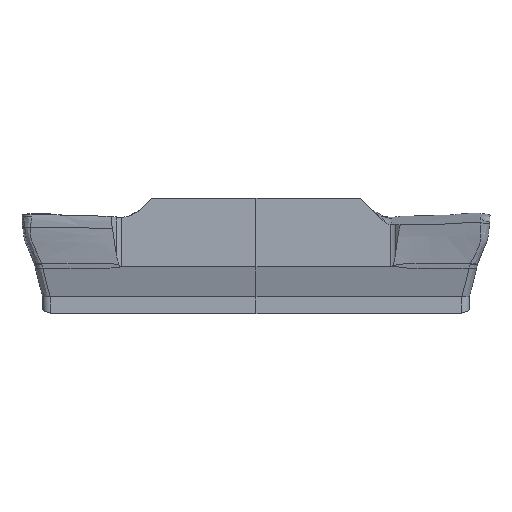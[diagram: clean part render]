
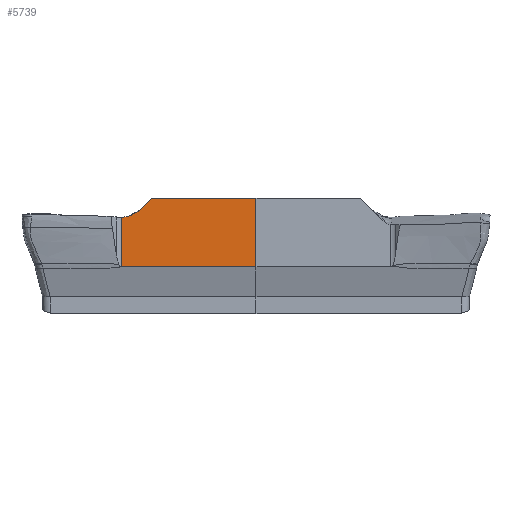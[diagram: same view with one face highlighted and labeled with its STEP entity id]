
A CAD part, left-side view. The second image highlights one B-rep face of the part: STEP entity #5739.
In plain terms, the highlighted planar face has unit normal (-1, 0, 0).
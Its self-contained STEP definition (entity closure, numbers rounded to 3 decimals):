
#5710=AXIS2_PLACEMENT_3D('Plane Axis2P3D',#5707,#5708,#5709) ;
#4323=CARTESIAN_POINT('Vertex',(-1.14,12.632,0.019)) ;
#4327=CARTESIAN_POINT('Control Point',(-1.14,11.605,0.655)) ;
#4328=CARTESIAN_POINT('Control Point',(-1.14,11.663,0.596)) ;
#4329=CARTESIAN_POINT('Control Point',(-1.14,11.722,0.537)) ;
#4330=CARTESIAN_POINT('Control Point',(-1.14,11.781,0.479)) ;
#4331=CARTESIAN_POINT('Control Point',(-1.14,11.862,0.394)) ;
#4332=CARTESIAN_POINT('Control Point',(-1.14,11.946,0.314)) ;
#4333=CARTESIAN_POINT('Control Point',(-1.14,11.97,0.293)) ;
#4334=CARTESIAN_POINT('Control Point',(-1.14,12.047,0.228)) ;
#4335=CARTESIAN_POINT('Control Point',(-1.14,12.131,0.173)) ;
#4336=CARTESIAN_POINT('Control Point',(-1.14,12.19,0.141)) ;
#4337=CARTESIAN_POINT('Control Point',(-1.14,12.309,0.083)) ;
#4338=CARTESIAN_POINT('Control Point',(-1.14,12.435,0.042)) ;
#4339=CARTESIAN_POINT('Control Point',(-1.14,12.5,0.027)) ;
#4340=CARTESIAN_POINT('Control Point',(-1.14,12.566,0.02)) ;
#4341=CARTESIAN_POINT('Control Point',(-1.14,12.632,0.019)) ;
#4342=CARTESIAN_POINT('Vertex',(-1.14,11.605,0.655)) ;
#4446=CARTESIAN_POINT('Vertex',(-1.14,12.632,-1.653)) ;
#4449=CARTESIAN_POINT('Line Origine',(-1.14,12.632,3.281)) ;
#5692=CARTESIAN_POINT('Vertex',(-1.14,8.095,0.655)) ;
#5695=CARTESIAN_POINT('Line Origine',(-1.14,9.85,0.655)) ;
#5707=CARTESIAN_POINT('Axis2P3D Location',(-1.14,12.632,8.531)) ;
#5712=CARTESIAN_POINT('Line Origine',(-1.14,12.632,-1.655)) ;
#5716=CARTESIAN_POINT('Vertex',(-1.14,12.632,-1.656)) ;
#5719=CARTESIAN_POINT('Line Origine',(-1.14,10.364,-1.656)) ;
#5723=CARTESIAN_POINT('Vertex',(-1.14,8.095,-1.656)) ;
#5726=CARTESIAN_POINT('Line Origine',(-1.14,8.095,-0.501)) ;
#4450=DIRECTION('Vector Direction',(0.,0.,-1.)) ;
#5696=DIRECTION('Vector Direction',(0.,-1.,0.)) ;
#5708=DIRECTION('Axis2P3D Direction',(-1.,0.,0.)) ;
#5709=DIRECTION('Axis2P3D XDirection',(0.,-1.,0.)) ;
#5713=DIRECTION('Vector Direction',(0.,0.,1.)) ;
#5720=DIRECTION('Vector Direction',(0.,1.,0.)) ;
#5727=DIRECTION('Vector Direction',(0.,0.,-1.)) ;
#4451=VECTOR('Line Direction',#4450,1.) ;
#5697=VECTOR('Line Direction',#5696,1.) ;
#5714=VECTOR('Line Direction',#5713,1.) ;
#5721=VECTOR('Line Direction',#5720,1.) ;
#5728=VECTOR('Line Direction',#5727,1.) ;
#5732=ORIENTED_EDGE('',*,*,#5718,.F.) ;
#5733=ORIENTED_EDGE('',*,*,#5725,.F.) ;
#5734=ORIENTED_EDGE('',*,*,#5730,.F.) ;
#5735=ORIENTED_EDGE('',*,*,#5699,.F.) ;
#5736=ORIENTED_EDGE('',*,*,#4344,.T.) ;
#5737=ORIENTED_EDGE('',*,*,#4453,.F.) ;
#5739=ADVANCED_FACE('CUT',(#5738),#5711,.T.) ;
#4326=B_SPLINE_CURVE_WITH_KNOTS('',5,(#4327,#4328,#4329,#4330,#4331,#4332,#4333,#4334,#4335,#4336,#4337,#4338,#4339,#4340,#4341),.UNSPECIFIED.,.F.,.U.,(6,3,3,3,6),(0.242,0.92,1.193,1.735,2.272),.UNSPECIFIED.) ;
#4344=EDGE_CURVE('',#4343,#4324,#4326,.T.) ;
#4453=EDGE_CURVE('',#4447,#4324,#4452,.F.) ;
#5699=EDGE_CURVE('',#4343,#5693,#5698,.T.) ;
#5718=EDGE_CURVE('',#5717,#4447,#5715,.T.) ;
#5725=EDGE_CURVE('',#5724,#5717,#5722,.T.) ;
#5730=EDGE_CURVE('',#5693,#5724,#5729,.T.) ;
#5731=EDGE_LOOP('',(#5732,#5733,#5734,#5735,#5736,#5737)) ;
#5738=FACE_OUTER_BOUND('',#5731,.T.) ;
#4452=LINE('Line',#4449,#4451) ;
#5698=LINE('Line',#5695,#5697) ;
#5715=LINE('Line',#5712,#5714) ;
#5722=LINE('Line',#5719,#5721) ;
#5729=LINE('Line',#5726,#5728) ;
#5711=PLANE('',#5710) ;
#4324=VERTEX_POINT('',#4323) ;
#4343=VERTEX_POINT('',#4342) ;
#4447=VERTEX_POINT('',#4446) ;
#5693=VERTEX_POINT('',#5692) ;
#5717=VERTEX_POINT('',#5716) ;
#5724=VERTEX_POINT('',#5723) ;
